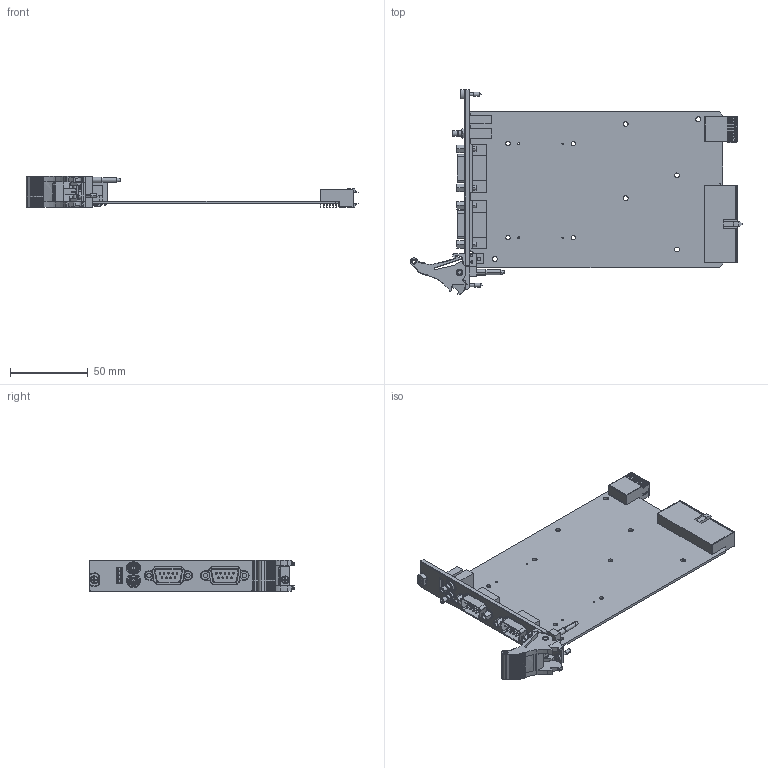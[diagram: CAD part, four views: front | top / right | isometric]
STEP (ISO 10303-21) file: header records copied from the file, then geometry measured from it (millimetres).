
FILE_DESCRIPTION((''),'2;1');
FILE_NAME('CU_PXI-8517','2009-02-19T',('dcrowder'),(''),'PRO/ENGINEER BY PARAMETRIC TECHNOLOGY CORPORATION, 2006080','PRO/ENGINEER BY PARAMETRIC TECHNOLOGY CORPORATION, 2006080','');
FILE_SCHEMA(('CONFIG_CONTROL_DESIGN'));
Products named in the file (1): CU_PXI-8517
Bounding box: 213.24 x 131.56 x 20.19 mm (x, y, z)
Volume: 58491.5 mm3; surface area: 56956.5 mm2
Topology: 2 solids, 2 shells, 2714 faces, 7085 edges, 4566 vertices
Faces by surface type: plane 1754, cylinder 807, bspline 65, cone 50, sphere 22, torus 12, extrusion 4
Entity records: 95077 total; most frequent: CARTESIAN_POINT 27221, ORIENTED_EDGE 14154, DIRECTION 13912, EDGE_CURVE 7077, VECTOR 4822, LINE 4818, VERTEX_POINT 4585, AXIS2_PLACEMENT_3D 4545
